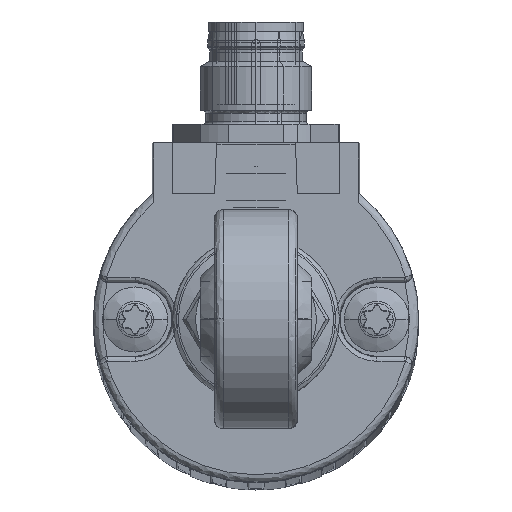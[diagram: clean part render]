
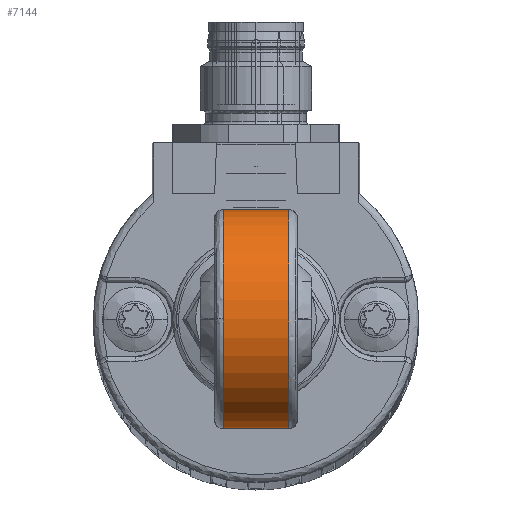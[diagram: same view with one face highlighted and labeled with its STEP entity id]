
A CAD part, top view. The second image highlights one B-rep face of the part: STEP entity #7144.
In plain terms, the highlighted cylindrical face has radius 11.8 mm (diameter 23.6 mm), a partial arc.
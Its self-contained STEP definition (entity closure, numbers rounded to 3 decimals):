
#6984 = VERTEX_POINT ( 'NONE', #25603 ) ;
#6985 = VERTEX_POINT ( 'NONE', #25602 ) ;
#6986 = EDGE_CURVE ( 'NONE', #6985, #6984, #25601, .T. ) ;
#7131 = EDGE_CURVE ( 'NONE', #6985, #7139, #26478, .T. ) ;
#7132 = ORIENTED_EDGE ( 'NONE', *, *, #7131, .T. ) ;
#7133 = ORIENTED_EDGE ( 'NONE', *, *, #6986, .F. ) ;
#7134 = EDGE_CURVE ( 'NONE', #7136, #6984, #26473, .T. ) ;
#7135 = ORIENTED_EDGE ( 'NONE', *, *, #7134, .T. ) ;
#7136 = VERTEX_POINT ( 'NONE', #26469 ) ;
#7137 = EDGE_CURVE ( 'NONE', #7136, #7140, #26468, .T. ) ;
#7138 = ORIENTED_EDGE ( 'NONE', *, *, #7137, .F. ) ;
#7139 = VERTEX_POINT ( 'NONE', #26462 ) ;
#7140 = VERTEX_POINT ( 'NONE', #26461 ) ;
#7141 = EDGE_CURVE ( 'NONE', #7140, #7139, #26459, .T. ) ;
#7142 = ORIENTED_EDGE ( 'NONE', *, *, #7141, .F. ) ;
#7143 = EDGE_LOOP ( 'NONE', ( #7142, #7138, #7135, #7133, #7132 ) ) ;
#7144 = ADVANCED_FACE ( 'NONE', ( #26454 ), #26520, .T. ) ;
#25597 = DIRECTION ( 'NONE',  ( 0., 1., 0. ) ) ;
#25598 = DIRECTION ( 'NONE',  ( 1., 0., 0. ) ) ;
#25599 = CARTESIAN_POINT ( 'NONE',  ( 3.608, 0.215, 504.85 ) ) ;
#25600 = AXIS2_PLACEMENT_3D ( 'NONE', #25599, #25598, #25597 ) ;
#25601 = CIRCLE ( 'NONE', #25600, 11.8 ) ;
#25602 = CARTESIAN_POINT ( 'NONE',  ( 3.608, 9.591, 497.686 ) ) ;
#25603 = CARTESIAN_POINT ( 'NONE',  ( 3.608, -9.161, 497.686 ) ) ;
#26454 = FACE_OUTER_BOUND ( 'NONE', #7143, .T. ) ;
#26455 = DIRECTION ( 'NONE',  ( 0., 0., -1. ) ) ;
#26456 = DIRECTION ( 'NONE',  ( -1., 0., 0. ) ) ;
#26457 = CARTESIAN_POINT ( 'NONE',  ( -3.392, 0.215, 504.85 ) ) ;
#26458 = AXIS2_PLACEMENT_3D ( 'NONE', #26457, #26456, #26455 ) ;
#26459 = CIRCLE ( 'NONE', #26458, 11.8 ) ;
#26461 = CARTESIAN_POINT ( 'NONE',  ( -3.392, 0.215, 516.65 ) ) ;
#26462 = CARTESIAN_POINT ( 'NONE',  ( -3.392, 9.591, 497.686 ) ) ;
#26464 = DIRECTION ( 'NONE',  ( 0., 0., -1. ) ) ;
#26465 = DIRECTION ( 'NONE',  ( -1., 0., 0. ) ) ;
#26466 = CARTESIAN_POINT ( 'NONE',  ( -3.392, 0.215, 504.85 ) ) ;
#26467 = AXIS2_PLACEMENT_3D ( 'NONE', #26466, #26465, #26464 ) ;
#26468 = CIRCLE ( 'NONE', #26467, 11.8 ) ;
#26469 = CARTESIAN_POINT ( 'NONE',  ( -3.392, -9.161, 497.686 ) ) ;
#26470 = DIRECTION ( 'NONE',  ( 1., 0., 0. ) ) ;
#26471 = VECTOR ( 'NONE', #26470, 1000. ) ;
#26472 = CARTESIAN_POINT ( 'NONE',  ( 0.108, -9.161, 497.686 ) ) ;
#26473 = LINE ( 'NONE', #26472, #26471 ) ;
#26474 = DIRECTION ( 'NONE',  ( -1., 0., 0. ) ) ;
#26476 = VECTOR ( 'NONE', #26474, 1000. ) ;
#26477 = CARTESIAN_POINT ( 'NONE',  ( 0.108, 9.591, 497.686 ) ) ;
#26478 = LINE ( 'NONE', #26477, #26476 ) ;
#26516 = DIRECTION ( 'NONE',  ( 0., 0., -1. ) ) ;
#26517 = DIRECTION ( 'NONE',  ( 1., 0., 0. ) ) ;
#26518 = AXIS2_PLACEMENT_3D ( 'NONE', #26519, #26517, #26516 ) ;
#26519 = CARTESIAN_POINT ( 'NONE',  ( -3.392, 0.215, 504.85 ) ) ;
#26520 = CYLINDRICAL_SURFACE ( 'NONE', #26518, 11.8 ) ;
